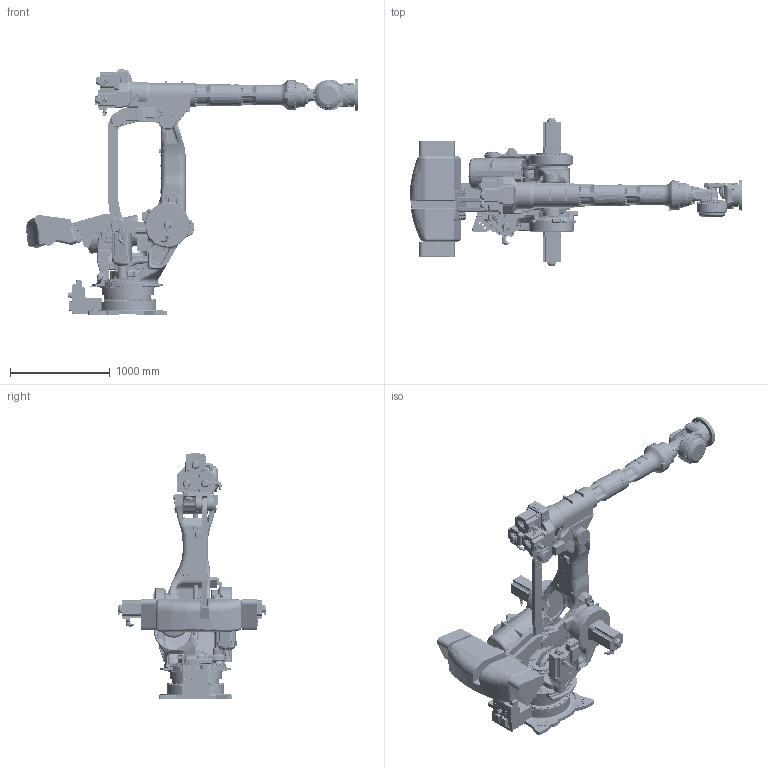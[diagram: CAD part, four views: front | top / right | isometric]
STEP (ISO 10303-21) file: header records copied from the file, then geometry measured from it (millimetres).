
FILE_DESCRIPTION((''),'2;1');
FILE_NAME('GP600_ASM_ASM','2017-12-07T',('Iwashige_Takaaki'),('YASKAWA ELECTRIC CORPORATION'),'PRO/ENGINEER BY PARAMETRIC TECHNOLOGY CORPORATION, 2013320','PRO/ENGINEER BY PARAMETRIC TECHNOLOGY CORPORATION, 2013320','');
FILE_SCHEMA(('CONFIG_CONTROL_DESIGN'));
Products named in the file (12): BASE_AXIS; S_AXIS; L_AXIS; U_AXIS; R_AIXS; B_AXIS; T_AXIS; LINK_A_AXIS; LINK_B_AXIS; BALANCER1_AXIS; BALANCER2_AXIS; GP600_ASM_ASM
Assembly tree (11 placements, depth 2):
  GP600_ASM_ASM
    BASE_AXIS
    S_AXIS
    L_AXIS
    U_AXIS
    R_AIXS
    B_AXIS
    T_AXIS
    LINK_A_AXIS
    LINK_B_AXIS
    BALANCER1_AXIS
    BALANCER2_AXIS
Bounding box: 3321.91 x 1483 x 2460 mm (x, y, z)
Volume: 628906772.4 mm3; surface area: 17687958.1 mm2
Topology: 11 solids, 63 shells, 14320 faces, 34307 edges, 21071 vertices
Faces by surface type: cylinder 5331, plane 4211, bspline 1988, cone 1379, torus 1166, sphere 231, extrusion 10, revolution 4
Entity records: 610642 total; most frequent: CARTESIAN_POINT 285668, ORIENTED_EDGE 68434, DIRECTION 68083, EDGE_CURVE 34269, AXIS2_PLACEMENT_3D 27693, VERTEX_POINT 21071, EDGE_LOOP 15610, CIRCLE 15341
